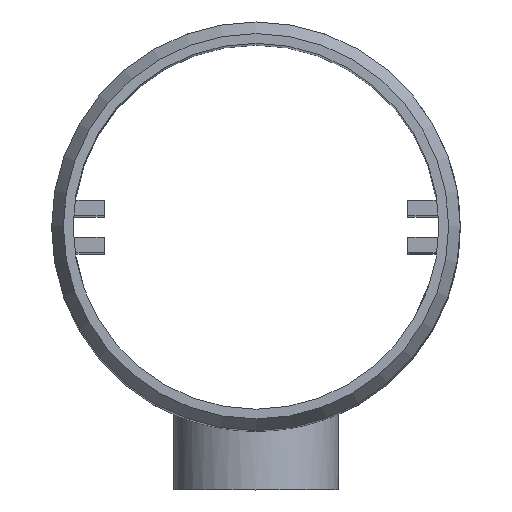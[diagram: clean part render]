
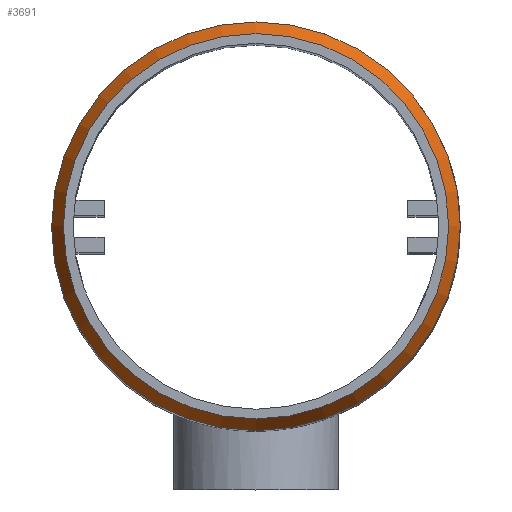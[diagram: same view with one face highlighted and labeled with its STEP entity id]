
A CAD part, top view. The second image highlights one B-rep face of the part: STEP entity #3691.
In plain terms, the highlighted conical face has half-angle 30.964 degrees and reference radius 21 mm.
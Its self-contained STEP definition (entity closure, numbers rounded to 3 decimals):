
#407 = PLANE('',#408);
#408 = AXIS2_PLACEMENT_3D('',#409,#410,#411);
#409 = CARTESIAN_POINT('',(0.,0.,108.));
#410 = DIRECTION('',(0.,0.,1.));
#411 = DIRECTION('',(1.,0.,-0.));
#1760 = EDGE_CURVE('',#1761,#1761,#1763,.T.);
#1761 = VERTEX_POINT('',#1762);
#1762 = CARTESIAN_POINT('',(19.8,0.,108.));
#1763 = SURFACE_CURVE('',#1764,(#1769,#1776),.PCURVE_S1.);
#1764 = CIRCLE('',#1765,19.8);
#1765 = AXIS2_PLACEMENT_3D('',#1766,#1767,#1768);
#1766 = CARTESIAN_POINT('',(0.,0.,108.));
#1767 = DIRECTION('',(0.,0.,1.));
#1768 = DIRECTION('',(1.,0.,-0.));
#1769 = PCURVE('',#407,#1770);
#1770 = DEFINITIONAL_REPRESENTATION('',(#1771),#1775);
#1771 = CIRCLE('',#1772,19.8);
#1772 = AXIS2_PLACEMENT_2D('',#1773,#1774);
#1773 = CARTESIAN_POINT('',(0.,0.));
#1774 = DIRECTION('',(1.,0.));
#1775 = ( GEOMETRIC_REPRESENTATION_CONTEXT(2) 
PARAMETRIC_REPRESENTATION_CONTEXT() REPRESENTATION_CONTEXT('2D SPACE',''
  ) );
#1776 = PCURVE('',#1777,#1782);
#1777 = CONICAL_SURFACE('',#1778,21.,0.54);
#1778 = AXIS2_PLACEMENT_3D('',#1779,#1780,#1781);
#1779 = CARTESIAN_POINT('',(0.,0.,106.));
#1780 = DIRECTION('',(-0.,-0.,-1.));
#1781 = DIRECTION('',(1.,0.,-0.));
#1782 = DEFINITIONAL_REPRESENTATION('',(#1783),#1787);
#1783 = LINE('',#1784,#1785);
#1784 = CARTESIAN_POINT('',(-0.,-2.));
#1785 = VECTOR('',#1786,1.);
#1786 = DIRECTION('',(-1.,-0.));
#1787 = ( GEOMETRIC_REPRESENTATION_CONTEXT(2) 
PARAMETRIC_REPRESENTATION_CONTEXT() REPRESENTATION_CONTEXT('2D SPACE',''
  ) );
#3691 = ADVANCED_FACE('',(#3692),#1777,.T.);
#3692 = FACE_BOUND('',#3693,.T.);
#3693 = EDGE_LOOP('',(#3694,#3695,#3718,#3744));
#3694 = ORIENTED_EDGE('',*,*,#1760,.F.);
#3695 = ORIENTED_EDGE('',*,*,#3696,.F.);
#3696 = EDGE_CURVE('',#3697,#1761,#3699,.T.);
#3697 = VERTEX_POINT('',#3698);
#3698 = CARTESIAN_POINT('',(21.,0.,106.));
#3699 = SEAM_CURVE('',#3700,(#3704,#3711),.PCURVE_S1.);
#3700 = LINE('',#3701,#3702);
#3701 = CARTESIAN_POINT('',(21.,0.,106.));
#3702 = VECTOR('',#3703,1.);
#3703 = DIRECTION('',(-0.514,0.,0.857)
  );
#3704 = PCURVE('',#1777,#3705);
#3705 = DEFINITIONAL_REPRESENTATION('',(#3706),#3710);
#3706 = LINE('',#3707,#3708);
#3707 = CARTESIAN_POINT('',(-6.283,0.));
#3708 = VECTOR('',#3709,1.);
#3709 = DIRECTION('',(-0.,-1.));
#3710 = ( GEOMETRIC_REPRESENTATION_CONTEXT(2) 
PARAMETRIC_REPRESENTATION_CONTEXT() REPRESENTATION_CONTEXT('2D SPACE',''
  ) );
#3711 = PCURVE('',#1777,#3712);
#3712 = DEFINITIONAL_REPRESENTATION('',(#3713),#3717);
#3713 = LINE('',#3714,#3715);
#3714 = CARTESIAN_POINT('',(0.,-0.));
#3715 = VECTOR('',#3716,1.);
#3716 = DIRECTION('',(-0.,-1.));
#3717 = ( GEOMETRIC_REPRESENTATION_CONTEXT(2) 
PARAMETRIC_REPRESENTATION_CONTEXT() REPRESENTATION_CONTEXT('2D SPACE',''
  ) );
#3718 = ORIENTED_EDGE('',*,*,#3719,.T.);
#3719 = EDGE_CURVE('',#3697,#3697,#3720,.T.);
#3720 = SURFACE_CURVE('',#3721,(#3726,#3732),.PCURVE_S1.);
#3721 = CIRCLE('',#3722,21.);
#3722 = AXIS2_PLACEMENT_3D('',#3723,#3724,#3725);
#3723 = CARTESIAN_POINT('',(0.,0.,106.));
#3724 = DIRECTION('',(0.,0.,1.));
#3725 = DIRECTION('',(1.,0.,-0.));
#3726 = PCURVE('',#1777,#3727);
#3727 = DEFINITIONAL_REPRESENTATION('',(#3728),#3731);
#3728 = B_SPLINE_CURVE_WITH_KNOTS('',1,(#3729,#3730),.UNSPECIFIED.,.F.,
  .F.,(2,2),(0.,6.283),.PIECEWISE_BEZIER_KNOTS.);
#3729 = CARTESIAN_POINT('',(0.,0.));
#3730 = CARTESIAN_POINT('',(-6.283,0.));
#3731 = ( GEOMETRIC_REPRESENTATION_CONTEXT(2) 
PARAMETRIC_REPRESENTATION_CONTEXT() REPRESENTATION_CONTEXT('2D SPACE',''
  ) );
#3732 = PCURVE('',#3733,#3738);
#3733 = CYLINDRICAL_SURFACE('',#3734,21.);
#3734 = AXIS2_PLACEMENT_3D('',#3735,#3736,#3737);
#3735 = CARTESIAN_POINT('',(0.,0.,0.));
#3736 = DIRECTION('',(0.,0.,1.));
#3737 = DIRECTION('',(1.,0.,-0.));
#3738 = DEFINITIONAL_REPRESENTATION('',(#3739),#3743);
#3739 = LINE('',#3740,#3741);
#3740 = CARTESIAN_POINT('',(0.,106.));
#3741 = VECTOR('',#3742,1.);
#3742 = DIRECTION('',(1.,0.));
#3743 = ( GEOMETRIC_REPRESENTATION_CONTEXT(2) 
PARAMETRIC_REPRESENTATION_CONTEXT() REPRESENTATION_CONTEXT('2D SPACE',''
  ) );
#3744 = ORIENTED_EDGE('',*,*,#3696,.T.);
